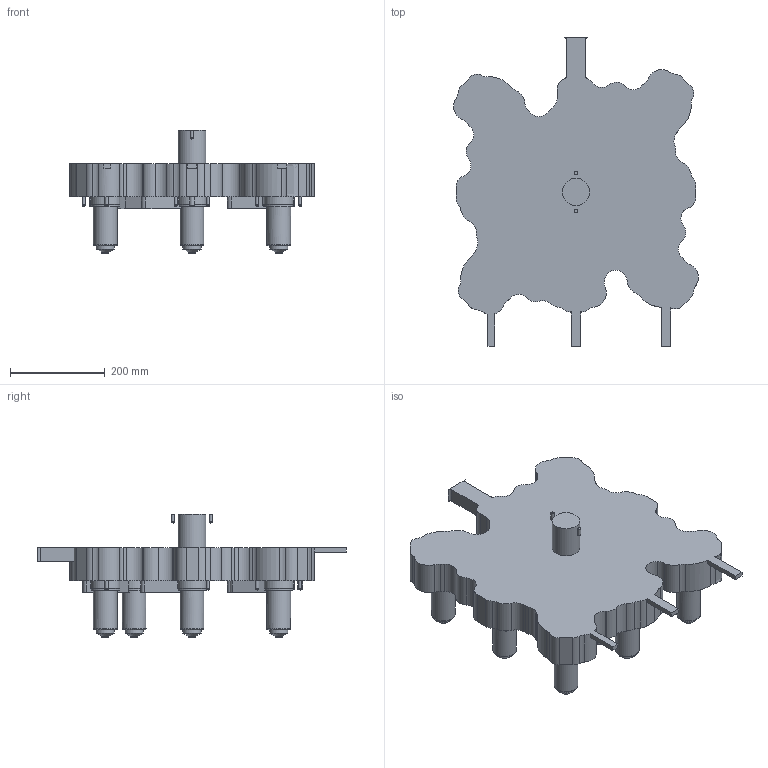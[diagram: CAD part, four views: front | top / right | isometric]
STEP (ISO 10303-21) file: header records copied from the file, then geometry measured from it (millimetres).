
FILE_DESCRIPTION(('STEP AP214'),'1');
FILE_NAME('S:/PROIECTE_YUDO_2012/PROIECTE YUDO 2012 2D/YUDO CZECH/YUCZ 2012-9B/YUCZ 2012-9B_CUTOUT.step','2012-02-22T08:44:20',(' '),(' '),'Spatial InterOp 3D',' ',' ');
FILE_SCHEMA(('automotive_design'));
Length unit declared in the file: millimetre
Products named in the file (3): TOOL
Bounding box: 515.87 x 650 x 260 mm (x, y, z)
Volume: 17446771 mm3; surface area: 807561.8 mm2
Topology: 3 solids, 3 shells, 318 faces, 835 edges, 539 vertices
Faces by surface type: cylinder 186, plane 86, cone 35, torus 10, extrusion 1
Full cylindrical faces by diameter (mm): 6.75 x36, 10 x1, 14 x8, 15 x1, 38 x8, 50 x8, 58 x1
Entity records: 11865 total; most frequent: CARTESIAN_POINT 1717, DIRECTION 1695, ORIENTED_EDGE 1400, EDGE_CURVE 700, AXIS2_PLACEMENT_3D 696, VERTEX_POINT 521, EDGE_LOOP 432, FACE_OUTER_BOUND 389
